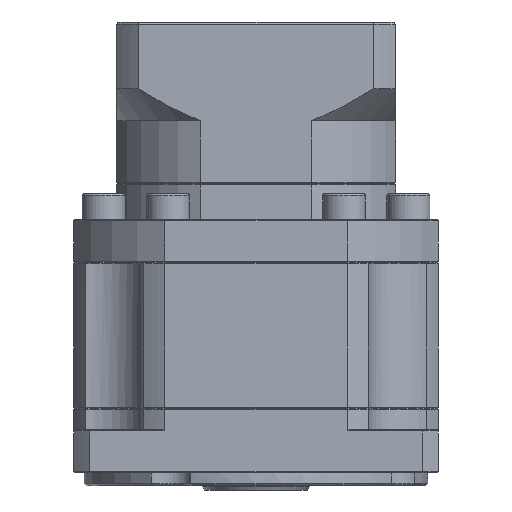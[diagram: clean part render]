
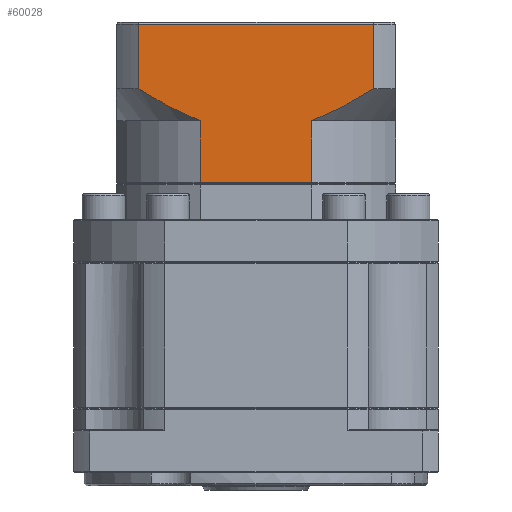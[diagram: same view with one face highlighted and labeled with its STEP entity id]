
A CAD part, front view. The second image highlights one B-rep face of the part: STEP entity #60028.
In plain terms, the highlighted planar face has unit normal (0, -1, 0).
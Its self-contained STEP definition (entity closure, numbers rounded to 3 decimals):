
#2661 = DIRECTION ( 'NONE',  ( 0., 0., 1. ) ) ;
#2746 = VERTEX_POINT ( 'NONE', #60233 ) ;
#6520 = VERTEX_POINT ( 'NONE', #17241 ) ;
#7353 = CARTESIAN_POINT ( 'NONE',  ( -23.595, 8.622, -42.843 ) ) ;
#8595 = CARTESIAN_POINT ( 'NONE',  ( -33.335, 8.622, -23.765 ) ) ;
#8930 = VERTEX_POINT ( 'NONE', #32667 ) ;
#14465 = ORIENTED_EDGE ( 'NONE', *, *, #67510, .T. ) ;
#16942 = EDGE_CURVE ( 'NONE', #42756, #122730, #117424, .T. ) ;
#17146 = DIRECTION ( 'NONE',  ( 1., 0., 0. ) ) ;
#17241 = CARTESIAN_POINT ( 'NONE',  ( -69.085, 8.622, -42.843 ) ) ;
#18532 = CARTESIAN_POINT ( 'NONE',  ( -75.317, 8.622, -25.686 ) ) ;
#21988 = VECTOR ( 'NONE', #97766, 1000. ) ;
#23645 = DIRECTION ( 'NONE',  ( 0., 1., 0. ) ) ;
#24508 = EDGE_LOOP ( 'NONE', ( #124872, #113028, #34621, #65257, #41999, #14465, #89340, #118216 ) ) ;
#27212 = FACE_OUTER_BOUND ( 'NONE', #24508, .T. ) ;
#27510 = LINE ( 'NONE', #125209, #66977 ) ;
#29807 = VERTEX_POINT ( 'NONE', #40483 ) ;
#30805 = CARTESIAN_POINT ( 'NONE',  ( -83.481, 8.622, -23.431 ) ) ;
#32667 = CARTESIAN_POINT ( 'NONE',  ( -28.709, 8.622, -5.931 ) ) ;
#34621 = ORIENTED_EDGE ( 'NONE', *, *, #116583, .F. ) ;
#35774 = EDGE_CURVE ( 'NONE', #8930, #42756, #27510, .T. ) ;
#38013 = CARTESIAN_POINT ( 'NONE',  ( -40.566, 8.622, -27.489 ) ) ;
#38416 = CARTESIAN_POINT ( 'NONE',  ( -38.114, 8.622, -26.345 ) ) ;
#40483 = CARTESIAN_POINT ( 'NONE',  ( -69.085, 8.622, -28.431 ) ) ;
#41999 = ORIENTED_EDGE ( 'NONE', *, *, #66529, .F. ) ;
#42756 = VERTEX_POINT ( 'NONE', #71087 ) ;
#43587 = CARTESIAN_POINT ( 'NONE',  ( -23.595, 8.622, -5.431 ) ) ;
#44405 = PLANE ( 'NONE',  #78935 ) ;
#48319 = CARTESIAN_POINT ( 'NONE',  ( -69.728, 8.622, -28.193 ) ) ;
#51137 = VERTEX_POINT ( 'NONE', #67349 ) ;
#55896 = VECTOR ( 'NONE', #59213, 1000. ) ;
#57221 = CARTESIAN_POINT ( 'NONE',  ( -70.367, 8.622, -27.941 ) ) ;
#57638 = CARTESIAN_POINT ( 'NONE',  ( -71.627, 8.622, -27.415 ) ) ;
#58910 = CARTESIAN_POINT ( 'NONE',  ( -81.212, 8.622, -22.394 ) ) ;
#59213 = DIRECTION ( 'NONE',  ( 0., 0., -1. ) ) ;
#60028 = ADVANCED_FACE ( 'NONE', ( #27212 ), #44405, .F. ) ;
#60233 = CARTESIAN_POINT ( 'NONE',  ( -43.105, 8.622, -42.843 ) ) ;
#64109 = DIRECTION ( 'NONE',  ( 0., 0., 1. ) ) ;
#65257 = ORIENTED_EDGE ( 'NONE', *, *, #90097, .F. ) ;
#66529 = EDGE_CURVE ( 'NONE', #6520, #29807, #78577, .T. ) ;
#66977 = VECTOR ( 'NONE', #77472, 1000. ) ;
#67349 = CARTESIAN_POINT ( 'NONE',  ( -83.481, 8.622, -5.931 ) ) ;
#67510 = EDGE_CURVE ( 'NONE', #6520, #2746, #81269, .T. ) ;
#67851 = CARTESIAN_POINT ( 'NONE',  ( -72.251, 8.622, -27.141 ) ) ;
#68952 = VECTOR ( 'NONE', #17146, 1000. ) ;
#70777 = CARTESIAN_POINT ( 'NONE',  ( -83.481, 8.622, -20.931 ) ) ;
#71087 = CARTESIAN_POINT ( 'NONE',  ( -28.709, 8.622, -20.931 ) ) ;
#73418 = B_SPLINE_CURVE_WITH_KNOTS ( 'NONE', 3,
 ( #117280, #48319, #57221, #57638, #67851, #87893, #18532, #96882, #58910, #86648 ),
 .UNSPECIFIED., .F., .F.,
 ( 4, 2, 2, 2, 4 ),
 ( 0.101, 0.104, 0.106, 0.11, 0.118 ),
 .UNSPECIFIED. ) ;
#74065 = VECTOR ( 'NONE', #64109, 1000. ) ;
#75824 = CARTESIAN_POINT ( 'NONE',  ( -28.709, 8.622, -20.931 ) ) ;
#77472 = DIRECTION ( 'NONE',  ( 0., 0., -1. ) ) ;
#78577 = LINE ( 'NONE', #84174, #74065 ) ;
#78935 = AXIS2_PLACEMENT_3D ( 'NONE', #43587, #23645, #111674 ) ;
#81269 = LINE ( 'NONE', #7353, #68952 ) ;
#84174 = CARTESIAN_POINT ( 'NONE',  ( -69.085, 8.622, -28.431 ) ) ;
#85018 = EDGE_CURVE ( 'NONE', #8930, #51137, #122476, .T. ) ;
#86648 = CARTESIAN_POINT ( 'NONE',  ( -83.481, 8.622, -20.931 ) ) ;
#87893 = CARTESIAN_POINT ( 'NONE',  ( -74.105, 8.622, -26.291 ) ) ;
#89340 = ORIENTED_EDGE ( 'NONE', *, *, #97291, .F. ) ;
#90097 = EDGE_CURVE ( 'NONE', #29807, #103532, #73418, .T. ) ;
#95867 = CARTESIAN_POINT ( 'NONE',  ( -30.999, 8.622, -22.38 ) ) ;
#96882 = CARTESIAN_POINT ( 'NONE',  ( -78.897, 8.622, -23.782 ) ) ;
#97195 = CARTESIAN_POINT ( 'NONE',  ( -43.105, 8.622, -28.431 ) ) ;
#97291 = EDGE_CURVE ( 'NONE', #122730, #2746, #126042, .T. ) ;
#97766 = DIRECTION ( 'NONE',  ( -1., 0., 0. ) ) ;
#98000 = LINE ( 'NONE', #30805, #104097 ) ;
#103532 = VERTEX_POINT ( 'NONE', #70777 ) ;
#104097 = VECTOR ( 'NONE', #2661, 1000. ) ;
#105685 = CARTESIAN_POINT ( 'NONE',  ( -34.52, 8.622, -24.435 ) ) ;
#106097 = CARTESIAN_POINT ( 'NONE',  ( -29.847, 8.622, -21.665 ) ) ;
#111674 = DIRECTION ( 'NONE',  ( -1., 0., 0. ) ) ;
#113028 = ORIENTED_EDGE ( 'NONE', *, *, #85018, .T. ) ;
#114014 = CARTESIAN_POINT ( 'NONE',  ( -83.481, 8.622, -5.931 ) ) ;
#116583 = EDGE_CURVE ( 'NONE', #103532, #51137, #98000, .T. ) ;
#117280 = CARTESIAN_POINT ( 'NONE',  ( -69.085, 8.622, -28.431 ) ) ;
#117424 = B_SPLINE_CURVE_WITH_KNOTS ( 'NONE', 3,
 ( #75824, #106097, #95867, #8595, #105685, #38416, #38013, #126070 ),
 .UNSPECIFIED., .F., .F.,
 ( 4, 2, 2, 4 ),
 ( 0.059, 0.063, 0.067, 0.075 ),
 .UNSPECIFIED. ) ;
#118216 = ORIENTED_EDGE ( 'NONE', *, *, #16942, .F. ) ;
#122476 = LINE ( 'NONE', #114014, #21988 ) ;
#122730 = VERTEX_POINT ( 'NONE', #126058 ) ;
#124872 = ORIENTED_EDGE ( 'NONE', *, *, #35774, .F. ) ;
#125209 = CARTESIAN_POINT ( 'NONE',  ( -28.709, 8.622, -23.431 ) ) ;
#126042 = LINE ( 'NONE', #97195, #55896 ) ;
#126058 = CARTESIAN_POINT ( 'NONE',  ( -43.105, 8.622, -28.431 ) ) ;
#126070 = CARTESIAN_POINT ( 'NONE',  ( -43.105, 8.622, -28.431 ) ) ;
